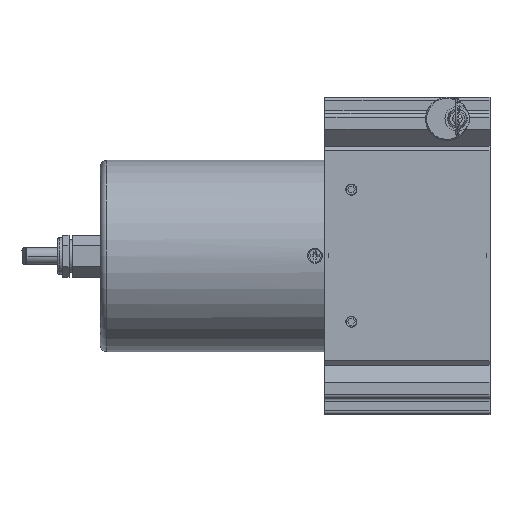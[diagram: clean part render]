
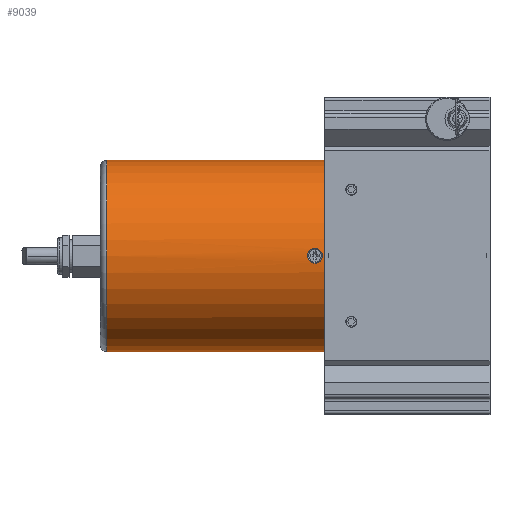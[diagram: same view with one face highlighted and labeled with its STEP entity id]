
A CAD part, top view. The second image highlights one B-rep face of the part: STEP entity #9039.
In plain terms, the highlighted cylindrical face has radius 29 mm (diameter 58 mm), a partial arc.
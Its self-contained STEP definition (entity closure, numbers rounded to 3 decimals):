
#283=CARTESIAN_POINT('',(-114.,0.,0.));
#284=DIRECTION('',(1.,0.,0.));
#285=DIRECTION('',(0.,1.,0.));
#286=AXIS2_PLACEMENT_3D('',#283,#284,#285);
#288=CARTESIAN_POINT('',(-114.,0.,0.));
#289=DIRECTION('',(1.,0.,0.));
#290=DIRECTION('',(0.,1.,0.008));
#291=AXIS2_PLACEMENT_3D('',#288,#289,#290);
#419=DIRECTION('',(-1.,0.,0.));
#420=VECTOR('',#419,66.);
#421=CARTESIAN_POINT('',(-48.,29.,0.));
#422=LINE('',#421,#420);
#1459=CARTESIAN_POINT('',(-51.,2.215,28.915));
#1460=CARTESIAN_POINT('',(-50.796,2.215,28.915));
#1461=CARTESIAN_POINT('',(-50.401,2.165,28.919));
#1462=CARTESIAN_POINT('',(-49.829,1.937,28.936));
#1463=CARTESIAN_POINT('',(-49.341,1.571,28.958));
#1464=CARTESIAN_POINT('',(-48.973,1.1,28.981));
#1465=CARTESIAN_POINT('',(-48.744,0.549,
28.997));
#1466=CARTESIAN_POINT('',(-48.675,-0.025,
29.002));
#1467=CARTESIAN_POINT('',(-48.757,-0.593,
28.996));
#1468=CARTESIAN_POINT('',(-48.99,-1.127,
28.98));
#1469=CARTESIAN_POINT('',(-49.356,-1.584,
28.958));
#1470=CARTESIAN_POINT('',(-49.835,-1.94,
28.936));
#1471=CARTESIAN_POINT('',(-50.4,-2.164,
28.919));
#1472=CARTESIAN_POINT('',(-50.795,-2.215,
28.915));
#1473=CARTESIAN_POINT('',(-51.,-2.215,28.915));
#1513=CARTESIAN_POINT('',(-51.,-2.215,28.915));
#1514=CARTESIAN_POINT('',(-51.204,-2.215,
28.915));
#1515=CARTESIAN_POINT('',(-51.599,-2.165,
28.919));
#1516=CARTESIAN_POINT('',(-52.171,-1.937,
28.936));
#1517=CARTESIAN_POINT('',(-52.659,-1.571,28.958));
#1518=CARTESIAN_POINT('',(-53.027,-1.1,
28.981));
#1519=CARTESIAN_POINT('',(-53.256,-0.549,
28.997));
#1520=CARTESIAN_POINT('',(-53.325,0.025,
29.002));
#1521=CARTESIAN_POINT('',(-53.243,0.593,
28.996));
#1522=CARTESIAN_POINT('',(-53.01,1.127,28.98));
#1523=CARTESIAN_POINT('',(-52.644,1.584,28.958));
#1524=CARTESIAN_POINT('',(-52.165,1.94,28.936));
#1525=CARTESIAN_POINT('',(-51.6,2.164,28.919));
#1526=CARTESIAN_POINT('',(-51.205,2.215,28.915));
#1527=CARTESIAN_POINT('',(-51.,2.215,28.915));
#1533=DIRECTION('',(-1.,0.,0.));
#1534=VECTOR('',#1533,66.);
#1535=CARTESIAN_POINT('',(-48.,-29.,0.));
#1536=LINE('',#1535,#1534);
#1552=CARTESIAN_POINT('',(-48.,0.,0.));
#1553=DIRECTION('',(1.,0.,0.));
#1554=DIRECTION('',(0.,1.,0.));
#1555=AXIS2_PLACEMENT_3D('',#1552,#1553,#1554);
#6759=CARTESIAN_POINT('',(-48.,-29.,0.));
#6760=CARTESIAN_POINT('',(-48.,29.,0.));
#6761=VERTEX_POINT('',#6759);
#6762=VERTEX_POINT('',#6760);
#6775=CARTESIAN_POINT('',(-114.,-29.,0.));
#6776=VERTEX_POINT('',#6775);
#6777=CARTESIAN_POINT('',(-114.,29.,0.));
#6778=VERTEX_POINT('',#6777);
#6793=CARTESIAN_POINT('',(-114.,28.999,0.218));
#6794=VERTEX_POINT('',#6793);
#6822=VERTEX_POINT('',#1513);
#6823=VERTEX_POINT('',#1527);
#9022=CARTESIAN_POINT('',(-116.,0.,0.));
#9023=DIRECTION('',(1.,0.,0.));
#9024=DIRECTION('',(0.,1.,0.));
#9025=AXIS2_PLACEMENT_3D('',#9022,#9023,#9024);
#9026=CYLINDRICAL_SURFACE('',#9025,29.);
#9028=ORIENTED_EDGE('',*,*,#9027,.T.);
#9029=ORIENTED_EDGE('',*,*,#7359,.T.);
#9030=ORIENTED_EDGE('',*,*,#7325,.F.);
#9031=ORIENTED_EDGE('',*,*,#7323,.F.);
#9032=ORIENTED_EDGE('',*,*,#7355,.F.);
#9033=EDGE_LOOP('',(#9028,#9029,#9030,#9031,#9032));
#9034=FACE_OUTER_BOUND('',#9033,.F.);
#9035=ORIENTED_EDGE('',*,*,#9014,.F.);
#9036=ORIENTED_EDGE('',*,*,#8922,.F.);
#9037=EDGE_LOOP('',(#9035,#9036));
#9038=FACE_BOUND('',#9037,.F.);
#9039=ADVANCED_FACE('',(#9034,#9038),#9026,.T.);
#287=CIRCLE('',#286,29.);
#292=CIRCLE('',#291,29.);
#1474=B_SPLINE_CURVE_WITH_KNOTS('',3,(#1459,#1460,#1461,#1462,#1463,#1464,#1465,
#1466,#1467,#1468,#1469,#1470,#1471,#1472,#1473),.UNSPECIFIED.,.F.,.F.,(4,1,1,1,
1,1,1,1,1,1,1,1,4),(0.,0.083,0.167,0.25,
0.333,0.417,0.5,0.583,0.667,
0.75,0.833,0.917,1.),.UNSPECIFIED.);
#1528=B_SPLINE_CURVE_WITH_KNOTS('',3,(#1513,#1514,#1515,#1516,#1517,#1518,#1519,
#1520,#1521,#1522,#1523,#1524,#1525,#1526,#1527),.UNSPECIFIED.,.F.,.F.,(4,1,1,1,
1,1,1,1,1,1,1,1,4),(0.,0.083,0.167,0.25,
0.333,0.417,0.5,0.583,0.667,
0.75,0.833,0.917,1.),.UNSPECIFIED.);
#1556=CIRCLE('',#1555,29.);
#7323=EDGE_CURVE('',#6778,#6794,#287,.T.);
#7325=EDGE_CURVE('',#6794,#6776,#292,.T.);
#7355=EDGE_CURVE('',#6762,#6778,#422,.T.);
#7359=EDGE_CURVE('',#6761,#6776,#1536,.T.);
#8922=EDGE_CURVE('',#6823,#6822,#1474,.T.);
#9014=EDGE_CURVE('',#6822,#6823,#1528,.T.);
#9027=EDGE_CURVE('',#6762,#6761,#1556,.T.);
